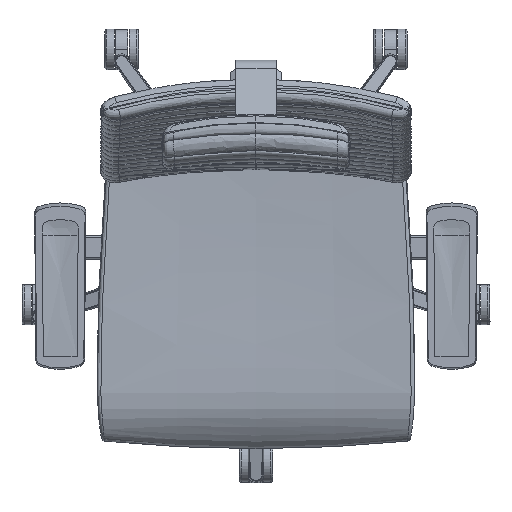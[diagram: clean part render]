
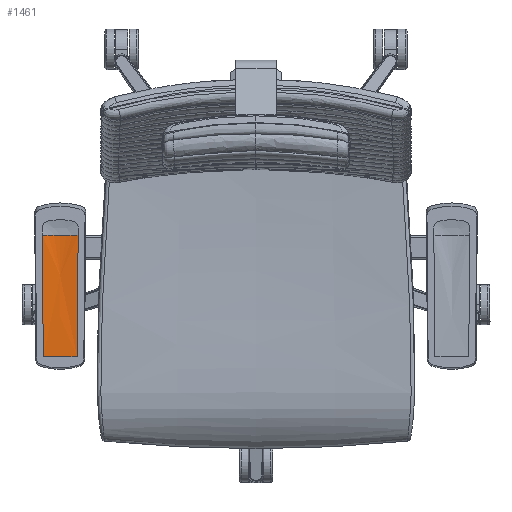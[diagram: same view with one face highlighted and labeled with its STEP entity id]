
A CAD part, top view. The second image highlights one B-rep face of the part: STEP entity #1461.
In plain terms, the highlighted free-form (B-spline) face has degree [2, 3] with [3, 4] control points.
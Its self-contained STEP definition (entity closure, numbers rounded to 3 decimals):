
#347=(
BOUNDED_CURVE()
B_SPLINE_CURVE(3,(#24119,#24120,#24121,#24122),.UNSPECIFIED.,.F.,.F.)
B_SPLINE_CURVE_WITH_KNOTS((4,4),(0.,180.167),.UNSPECIFIED.)
CURVE()
GEOMETRIC_REPRESENTATION_ITEM()
RATIONAL_B_SPLINE_CURVE((1.,1.,1.,1.))
REPRESENTATION_ITEM('')
);
#348=(
BOUNDED_CURVE()
B_SPLINE_CURVE(3,(#24123,#24124,#24125,#24126),.UNSPECIFIED.,.F.,.F.)
B_SPLINE_CURVE_WITH_KNOTS((4,4),(-180.167,0.),.UNSPECIFIED.)
CURVE()
GEOMETRIC_REPRESENTATION_ITEM()
RATIONAL_B_SPLINE_CURVE((1.,1.,1.,1.))
REPRESENTATION_ITEM('')
);
#548=(
BOUNDED_SURFACE()
B_SPLINE_SURFACE(2,3,((#24024,#24025,#24026,#24027),(#24028,#24029,#24030,
#24031),(#24032,#24033,#24034,#24035)),.UNSPECIFIED.,.F.,.F.,.F.)
B_SPLINE_SURFACE_WITH_KNOTS((3,3),(4,4),(-53.728,0.),(0.,180.167),
 .UNSPECIFIED.)
GEOMETRIC_REPRESENTATION_ITEM()
RATIONAL_B_SPLINE_SURFACE(((1.,1.,1.,1.),(0.975,0.975,
0.975,0.975),(1.,1.,1.,1.)))
REPRESENTATION_ITEM('')
SURFACE()
);
#647=TRIMMED_CURVE($,#763,(#24114),(#24115),.T.,.CARTESIAN.);
#648=TRIMMED_CURVE($,#764,(#24117),(#24118),.T.,.CARTESIAN.);
#763=CIRCLE('',#11733,119.774);
#764=CIRCLE('',#11734,119.774);
#1461=ADVANCED_FACE('',(#2235),#548,.T.);
#2235=FACE_OUTER_BOUND('',#3009,.T.);
#3009=EDGE_LOOP('',(#4475,#4476,#4477,#4478,#4479));
#4475=ORIENTED_EDGE('',*,*,#7401,.F.);
#4476=ORIENTED_EDGE('',*,*,#7385,.F.);
#4477=ORIENTED_EDGE('',*,*,#7383,.F.);
#4478=ORIENTED_EDGE('',*,*,#7382,.F.);
#4479=ORIENTED_EDGE('',*,*,#7384,.F.);
#7382=EDGE_CURVE('',#10388,#10389,#647,.T.);
#7383=EDGE_CURVE('',#10389,#10387,#648,.T.);
#7384=EDGE_CURVE('',#10390,#10388,#347,.T.);
#7385=EDGE_CURVE('',#10387,#10391,#348,.T.);
#7401=EDGE_CURVE('',#10391,#10390,#9071,.T.);
#9071=B_SPLINE_CURVE_WITH_KNOTS('',1,(#24204,#24205),.UNSPECIFIED.,.F.,
 .F.,(2,2),(0.,50.276),.UNSPECIFIED.);
#10387=VERTEX_POINT('',#24087);
#10388=VERTEX_POINT('',#24088);
#10389=VERTEX_POINT('',#24089);
#10390=VERTEX_POINT('',#24090);
#10391=VERTEX_POINT('',#24091);
#11733=AXIS2_PLACEMENT_3D($,#24113,#12194,#12195);
#11734=AXIS2_PLACEMENT_3D($,#24116,#12196,#12197);
#12194=DIRECTION('',(0.,-1.,0.002));
#12195=DIRECTION('',(-0.222,-0.002,-0.975));
#12196=DIRECTION('',(0.,-1.,0.002));
#12197=DIRECTION('',(0.,-0.002,-1.));
#24024=CARTESIAN_POINT('',(-315.828,-164.805,673.407));
#24025=CARTESIAN_POINT('',(-316.329,-104.752,673.259));
#24026=CARTESIAN_POINT('',(-316.829,-44.699,673.11));
#24027=CARTESIAN_POINT('',(-317.33,15.355,672.962));
#24028=CARTESIAN_POINT('',(-290.691,-164.805,673.407));
#24029=CARTESIAN_POINT('',(-290.691,-104.752,673.31));
#24030=CARTESIAN_POINT('',(-290.691,-44.713,667.198));
#24031=CARTESIAN_POINT('',(-290.691,15.34,666.885));
#24032=CARTESIAN_POINT('',(-265.553,-164.805,673.407));
#24033=CARTESIAN_POINT('',(-265.052,-104.752,673.259));
#24034=CARTESIAN_POINT('',(-264.552,-44.699,673.11));
#24035=CARTESIAN_POINT('',(-264.051,15.355,672.962));
#24087=CARTESIAN_POINT('',(-264.051,15.355,672.962));
#24088=CARTESIAN_POINT('',(-317.33,15.355,672.962));
#24089=CARTESIAN_POINT('',(-290.691,15.347,669.962));
#24090=CARTESIAN_POINT('',(-315.828,-164.805,673.407));
#24091=CARTESIAN_POINT('',(-265.553,-164.805,673.407));
#24113=CARTESIAN_POINT('',(-290.691,15.643,789.735));
#24114=CARTESIAN_POINT('',(-317.33,15.355,672.962));
#24115=CARTESIAN_POINT('',(-290.691,15.347,669.962));
#24116=CARTESIAN_POINT('',(-290.691,15.643,789.735));
#24117=CARTESIAN_POINT('',(-290.691,15.347,669.962));
#24118=CARTESIAN_POINT('',(-264.051,15.355,672.962));
#24119=CARTESIAN_POINT('',(-315.828,-164.805,673.407));
#24120=CARTESIAN_POINT('',(-316.329,-104.752,673.259));
#24121=CARTESIAN_POINT('',(-316.829,-44.699,673.11));
#24122=CARTESIAN_POINT('',(-317.33,15.355,672.962));
#24123=CARTESIAN_POINT('',(-264.051,15.355,672.962));
#24124=CARTESIAN_POINT('',(-264.552,-44.699,673.11));
#24125=CARTESIAN_POINT('',(-265.052,-104.752,673.259));
#24126=CARTESIAN_POINT('',(-265.553,-164.805,673.407));
#24204=CARTESIAN_POINT('',(-265.553,-164.805,673.407));
#24205=CARTESIAN_POINT('',(-315.828,-164.805,673.407));
